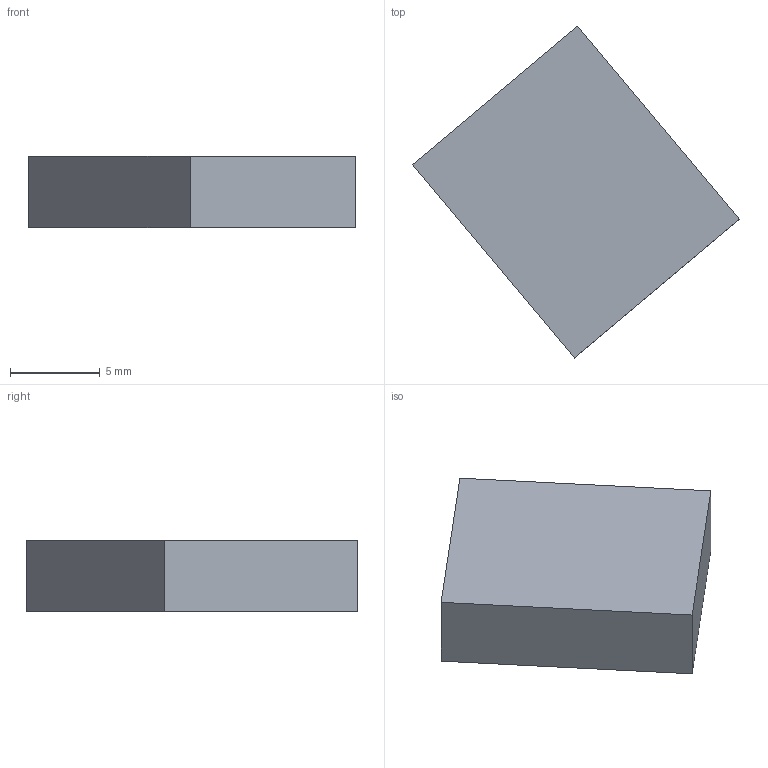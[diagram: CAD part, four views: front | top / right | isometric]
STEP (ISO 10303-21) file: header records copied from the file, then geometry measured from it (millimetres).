
FILE_DESCRIPTION(('Open CASCADE Model'),'2;1');
FILE_NAME('Open CASCADE Shape Model','2026-10-04T01:02:27',('Author'),( 'Open CASCADE'),'Open CASCADE STEP processor 8.0','Open CASCADE 8.0' ,'Unknown');
FILE_SCHEMA(('AUTOMOTIVE_DESIGN { 1 0 10303 214 1 1 1 1 }'));
Length unit declared in the file: millimetre
Products named in the file (1): Open CASCADE STEP translator 8.0 71
Bounding box: 18.19 x 18.44 x 4 mm (x, y, z)
Volume: 672 mm3; surface area: 544 mm2
Topology: 1 solids, 1 shells, 6 faces, 12 edges, 8 vertices
Faces by surface type: plane 6
Entity records: 322 total; most frequent: CARTESIAN_POINT 51, DIRECTION 50, LINE 36, VECTOR 36, ORIENTED_EDGE 24, PCURVE 24, DEFINITIONAL_REPRESENTATION 24, EDGE_CURVE 12
